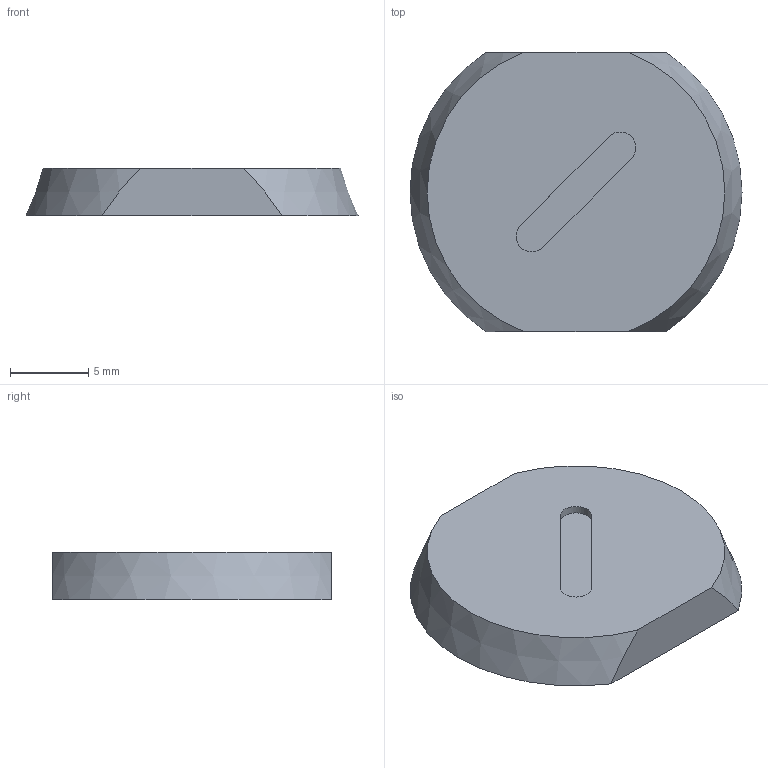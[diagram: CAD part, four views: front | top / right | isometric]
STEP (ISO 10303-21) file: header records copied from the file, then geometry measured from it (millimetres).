
FILE_DESCRIPTION(/* description */ (''),/* implementation_level */ '2;1');
FILE_NAME(/* name */ 'button_cap_br.stp',/* time_stamp */ '2019-01-13T14:23:34+01:00',/* author */ (''),/* organization */ (''),/* preprocessor_version */ 'ST-DEVELOPER v16',/* originating_system */ 'SIEMENS PLM Software NX 11.0',/* authorisation */ '');
FILE_SCHEMA (('AUTOMOTIVE_DESIGN { 1 0 10303 214 3 1 1 1 }'));
Length unit declared in the file: millimetre
Products named in the file (1): button_cap_br
Bounding box: 21.18 x 17.8 x 3 mm (x, y, z)
Volume: 886.1 mm3; surface area: 820.4 mm2
Topology: 1 solids, 1 shells, 13 faces, 27 edges, 18 vertices
Faces by surface type: plane 8, cylinder 3, cone 2
Full cylindrical faces by diameter (mm): 5 x1
Entity records: 374 total; most frequent: CARTESIAN_POINT 70, DIRECTION 60, ORIENTED_EDGE 52, EDGE_CURVE 26, AXIS2_PLACEMENT_3D 24, VERTEX_POINT 18, EDGE_LOOP 16, ADVANCED_FACE 13
